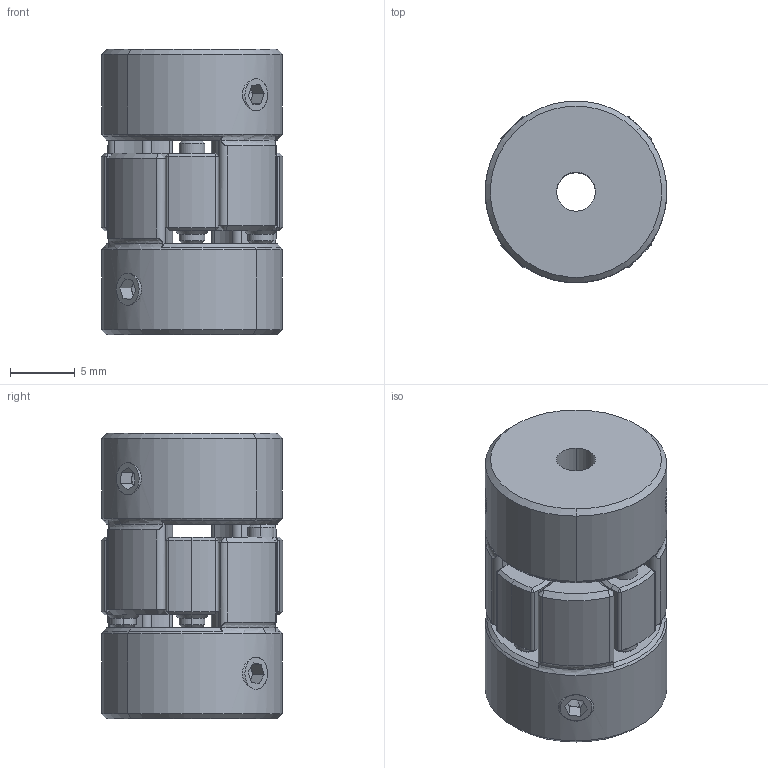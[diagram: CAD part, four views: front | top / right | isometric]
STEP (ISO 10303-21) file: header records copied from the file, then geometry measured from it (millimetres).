
FILE_DESCRIPTION (( 'STEP AP203' ), '1' );
FILE_NAME ('LF-D-D14L22-4-4.STEP', '2021-10-26T05:36:20', ( '' ), ( '' ), 'SwSTEP 2.0', 'SolidWorks 2018', '' );
FILE_SCHEMA (( 'CONFIG_CONTROL_DESIGN' ));
Length unit declared in the file: millimetre
Products named in the file (1): LF-D-D14L22-4-4
Bounding box: 14 x 14 x 22 mm (x, y, z)
Volume: 2850.3 mm3; surface area: 2140.2 mm2
Topology: 1 solids, 1 shells, 353 faces, 891 edges, 516 vertices
Faces by surface type: cone 164, cylinder 115, plane 66, torus 8
Entity records: 10901 total; most frequent: CARTESIAN_POINT 2254, DIRECTION 1947, ORIENTED_EDGE 1734, EDGE_CURVE 867, AXIS2_PLACEMENT_3D 784, VERTEX_POINT 516, CIRCLE 430, EDGE_LOOP 383
